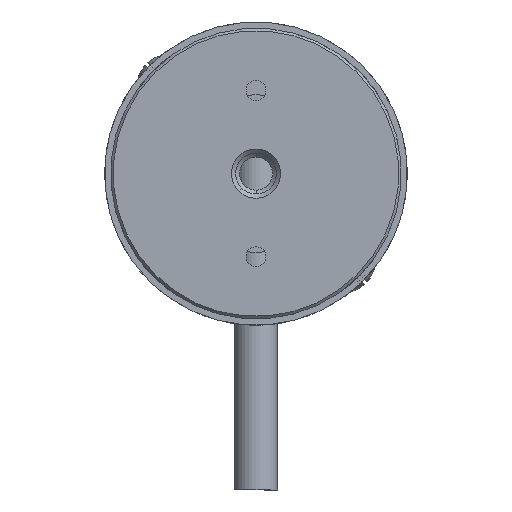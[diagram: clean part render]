
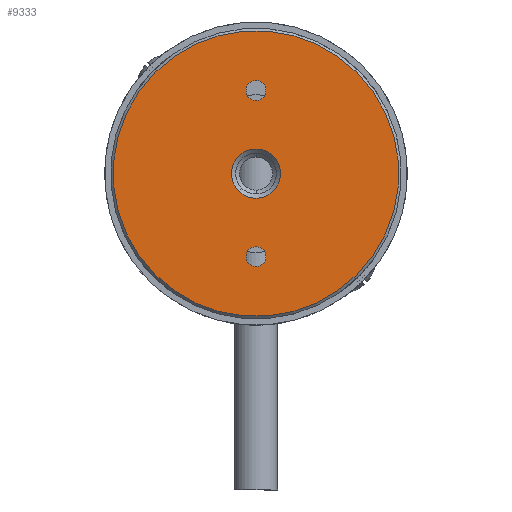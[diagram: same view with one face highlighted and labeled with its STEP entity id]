
A CAD part, left-side view. The second image highlights one B-rep face of the part: STEP entity #9333.
In plain terms, the highlighted planar face has unit normal (-1, 0, 0).
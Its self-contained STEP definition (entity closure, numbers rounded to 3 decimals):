
#23 = CARTESIAN_POINT ( 'NONE',  ( -0.583, 23.611, 2.889 ) ) ;
#554 = CARTESIAN_POINT ( 'NONE',  ( -0.583, -0.713, 27.214 ) ) ;
#1213 = CARTESIAN_POINT ( 'NONE',  ( -0.583, 11.449, 25.051 ) ) ;
#1228 = CARTESIAN_POINT ( 'NONE',  ( -0.583, 10.601, 25.9 ) ) ;
#1251 = CARTESIAN_POINT ( 'NONE',  ( -0.583, 11.449, 15.051 ) ) ;
#1468 = CARTESIAN_POINT ( 'NONE',  ( -0.583, 11.449, 5.051 ) ) ;
#1701 = VERTEX_POINT ( 'NONE', #6522 ) ;
#1924 = DIRECTION ( 'NONE',  ( 0., 0.707, -0.707 ) ) ;
#1954 = DIRECTION ( 'NONE',  ( 0., 0.707, -0.707 ) ) ;
#2095 = ORIENTED_EDGE ( 'NONE', *, *, #5923, .T. ) ;
#2184 = DIRECTION ( 'NONE',  ( 0., 0.707, -0.707 ) ) ;
#2532 = ORIENTED_EDGE ( 'NONE', *, *, #7007, .T. ) ;
#2636 = DIRECTION ( 'NONE',  ( 1., 0., 0. ) ) ;
#2708 = FACE_OUTER_BOUND ( 'NONE', #2980, .T. ) ;
#2768 = CARTESIAN_POINT ( 'NONE',  ( -0.583, 9.352, 17.148 ) ) ;
#2980 = EDGE_LOOP ( 'NONE', ( #2532, #9916 ) ) ;
#2989 = EDGE_LOOP ( 'NONE', ( #2095, #10449 ) ) ;
#3003 = EDGE_LOOP ( 'NONE', ( #8697, #5464 ) ) ;
#3025 = EDGE_LOOP ( 'NONE', ( #8449, #4720 ) ) ;
#3651 = DIRECTION ( 'NONE',  ( 1., 0., 0. ) ) ;
#3743 = CIRCLE ( 'NONE', #5003, 1.2 ) ;
#3816 = DIRECTION ( 'NONE',  ( 1., 0., 0. ) ) ;
#4022 = VERTEX_POINT ( 'NONE', #2768 ) ;
#4270 = DIRECTION ( 'NONE',  ( 1., 0., 0. ) ) ;
#4349 = CARTESIAN_POINT ( 'NONE',  ( -0.583, 11.449, 15.051 ) ) ;
#4609 = CARTESIAN_POINT ( 'NONE',  ( -0.583, 12.298, 24.203 ) ) ;
#4711 = AXIS2_PLACEMENT_3D ( 'NONE', #8878, #3816, #9679 ) ;
#4720 = ORIENTED_EDGE ( 'NONE', *, *, #7176, .T. ) ;
#4978 = CIRCLE ( 'NONE', #5188, 2.966 ) ;
#5003 = AXIS2_PLACEMENT_3D ( 'NONE', #1468, #7453, #2184 ) ;
#5043 = VERTEX_POINT ( 'NONE', #1228 ) ;
#5181 = VERTEX_POINT ( 'NONE', #554 ) ;
#5188 = AXIS2_PLACEMENT_3D ( 'NONE', #7882, #2636, #8602 ) ;
#5249 = DIRECTION ( 'NONE',  ( 0., 0.707, -0.707 ) ) ;
#5260 = AXIS2_PLACEMENT_3D ( 'NONE', #1213, #7146, #1924 ) ;
#5266 = AXIS2_PLACEMENT_3D ( 'NONE', #4349, #10128, #5249 ) ;
#5283 = AXIS2_PLACEMENT_3D ( 'NONE', #9250, #4270, #10060 ) ;
#5287 = VERTEX_POINT ( 'NONE', #10263 ) ;
#5349 = AXIS2_PLACEMENT_3D ( 'NONE', #8740, #3651, #9520 ) ;
#5362 = AXIS2_PLACEMENT_3D ( 'NONE', #1251, #7184, #1954 ) ;
#5464 = ORIENTED_EDGE ( 'NONE', *, *, #7133, .T. ) ;
#5504 = CIRCLE ( 'NONE', #5260, 1.2 ) ;
#5530 = CIRCLE ( 'NONE', #5266, 17.2 ) ;
#5803 = CIRCLE ( 'NONE', #5283, 1.2 ) ;
#5852 = AXIS2_PLACEMENT_3D ( 'NONE', #7502, #7459, #7437 ) ;
#5923 = EDGE_CURVE ( 'NONE', #4022, #6442, #9353, .T. ) ;
#6394 = CIRCLE ( 'NONE', #5349, 1.2 ) ;
#6442 = VERTEX_POINT ( 'NONE', #9939 ) ;
#6483 = FACE_BOUND ( 'NONE', #3025, .T. ) ;
#6522 = CARTESIAN_POINT ( 'NONE',  ( -0.583, 10.601, 5.9 ) ) ;
#6537 = CIRCLE ( 'NONE', #5362, 17.2 ) ;
#6611 = FACE_BOUND ( 'NONE', #2989, .T. ) ;
#6618 = FACE_BOUND ( 'NONE', #3003, .T. ) ;
#7007 = EDGE_CURVE ( 'NONE', #8440, #5181, #6537, .T. ) ;
#7011 = EDGE_CURVE ( 'NONE', #10439, #5043, #6394, .T. ) ;
#7133 = EDGE_CURVE ( 'NONE', #1701, #5287, #5803, .T. ) ;
#7146 = DIRECTION ( 'NONE',  ( 1., 0., 0. ) ) ;
#7162 = EDGE_CURVE ( 'NONE', #5181, #8440, #5530, .T. ) ;
#7176 = EDGE_CURVE ( 'NONE', #5043, #10439, #5504, .T. ) ;
#7184 = DIRECTION ( 'NONE',  ( -1., 0., 0. ) ) ;
#7333 = EDGE_CURVE ( 'NONE', #6442, #4022, #4978, .T. ) ;
#7437 = DIRECTION ( 'NONE',  ( 0., 0.707, -0.707 ) ) ;
#7453 = DIRECTION ( 'NONE',  ( 1., 0., 0. ) ) ;
#7459 = DIRECTION ( 'NONE',  ( 1., 0., 0. ) ) ;
#7502 = CARTESIAN_POINT ( 'NONE',  ( -0.583, 11.449, 15.051 ) ) ;
#7795 = EDGE_CURVE ( 'NONE', #5287, #1701, #3743, .T. ) ;
#7882 = CARTESIAN_POINT ( 'NONE',  ( -0.583, 11.449, 15.051 ) ) ;
#8440 = VERTEX_POINT ( 'NONE', #23 ) ;
#8449 = ORIENTED_EDGE ( 'NONE', *, *, #7011, .T. ) ;
#8602 = DIRECTION ( 'NONE',  ( 0., 0.707, -0.707 ) ) ;
#8697 = ORIENTED_EDGE ( 'NONE', *, *, #7795, .T. ) ;
#8740 = CARTESIAN_POINT ( 'NONE',  ( -0.583, 11.449, 25.051 ) ) ;
#8878 = CARTESIAN_POINT ( 'NONE',  ( -0.583, 13.193, 16.795 ) ) ;
#9250 = CARTESIAN_POINT ( 'NONE',  ( -0.583, 11.449, 5.051 ) ) ;
#9333 = ADVANCED_FACE ( 'NONE', ( #2708, #6618, #6483, #6611 ), #10362, .F. ) ;
#9353 = CIRCLE ( 'NONE', #5852, 2.966 ) ;
#9520 = DIRECTION ( 'NONE',  ( 0., 0.707, -0.707 ) ) ;
#9679 = DIRECTION ( 'NONE',  ( 0., 0.707, -0.707 ) ) ;
#9916 = ORIENTED_EDGE ( 'NONE', *, *, #7162, .T. ) ;
#9939 = CARTESIAN_POINT ( 'NONE',  ( -0.583, 13.546, 12.954 ) ) ;
#10060 = DIRECTION ( 'NONE',  ( 0., 0.707, -0.707 ) ) ;
#10128 = DIRECTION ( 'NONE',  ( -1., 0., 0. ) ) ;
#10263 = CARTESIAN_POINT ( 'NONE',  ( -0.583, 12.298, 4.203 ) ) ;
#10362 = PLANE ( 'NONE',  #4711 ) ;
#10439 = VERTEX_POINT ( 'NONE', #4609 ) ;
#10449 = ORIENTED_EDGE ( 'NONE', *, *, #7333, .T. ) ;
